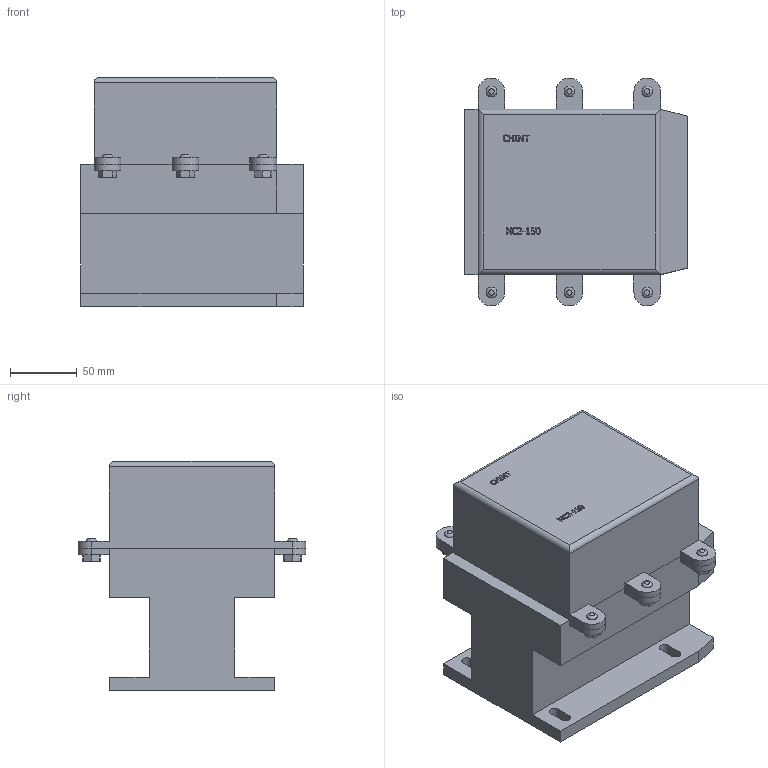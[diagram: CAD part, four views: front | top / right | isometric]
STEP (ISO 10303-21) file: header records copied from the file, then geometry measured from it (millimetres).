
FILE_DESCRIPTION(/* description */ (''),/* implementation_level */ '2;1');
FILE_NAME(/* name */ 'D:\CHINT2\NC2\NC2-150 230В 50Гц.stp',/* time_stamp */ '2017-11-12T20:47:07+03:00',/* author */ ('RSagdiev'),/* organization */ (''),/* preprocessor_version */ 'ST-DEVELOPER v16.5',/* originating_system */ 'Autodesk Inventor 2017',/* authorisation */ '');
FILE_SCHEMA (('AUTOMOTIVE_DESIGN { 1 0 10303 214 3 1 1 }'));
Length unit declared in the file: millimetre
Products named in the file (1): NC2-150 230В 50Гц
Bounding box: 167 x 171 x 172.1 mm (x, y, z)
Volume: 2736559.8 mm3; surface area: 199590.4 mm2
Topology: 14 solids, 14 shells, 323 faces, 852 edges, 570 vertices
Faces by surface type: plane 224, bspline 75, cylinder 24
Entity records: 10663 total; most frequent: CARTESIAN_POINT 3018, ORIENTED_EDGE 1704, DIRECTION 1274, EDGE_CURVE 852, LINE 640, VECTOR 640, VERTEX_POINT 570, EDGE_LOOP 344
